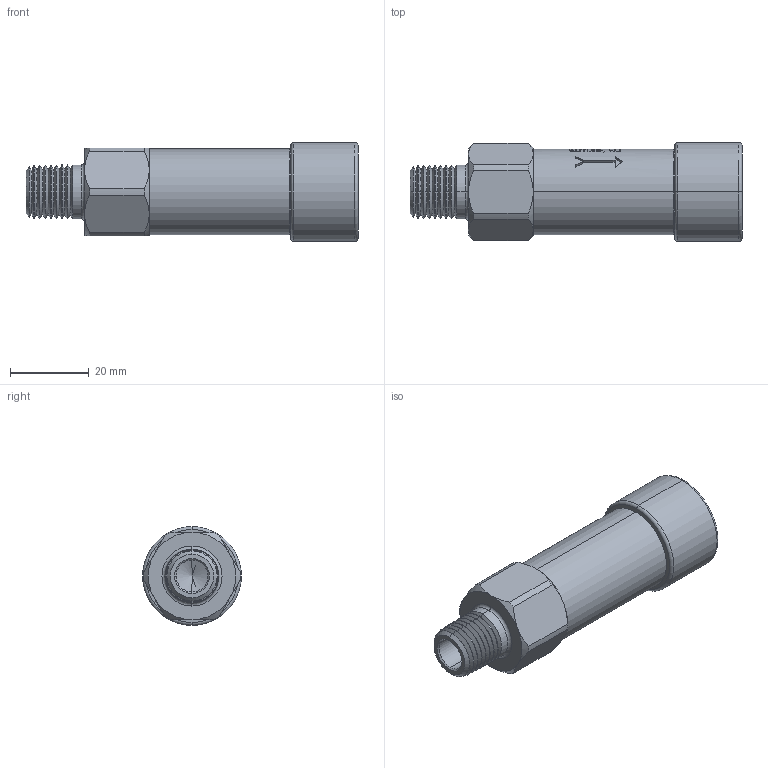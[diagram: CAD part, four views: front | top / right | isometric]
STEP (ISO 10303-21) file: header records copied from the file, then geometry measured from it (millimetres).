
FILE_DESCRIPTION (( 'STEP AP203' ), '1' );
FILE_NAME ('IRV6-4.STEP', '2020-08-13T13:36:26', ( '' ), ( '' ), 'SwSTEP 2.0', 'SolidWorks 2020', '' );
FILE_SCHEMA (( 'CONFIG_CONTROL_DESIGN' ));
Length unit declared in the file: inch
Products named in the file (2): Part5^IRV6-4; IRV6-4
Assembly tree (1 placements, depth 2):
  IRV6-4
    Part5^IRV6-4
Bounding box: 84.33 x 25.15 x 25.15 mm (x, y, z)
Volume: 27797 mm3; surface area: 8273 mm2
Topology: 1 solids, 2 shells, 349 faces, 862 edges, 543 vertices
Faces by surface type: plane 144, cone 82, bspline 70, cylinder 47, torus 6
Entity records: 15095 total; most frequent: CARTESIAN_POINT 7159, ORIENTED_EDGE 1720, DIRECTION 1422, EDGE_CURVE 860, VERTEX_POINT 543, AXIS2_PLACEMENT_3D 541, EDGE_LOOP 379, FACE_OUTER_BOUND 349
